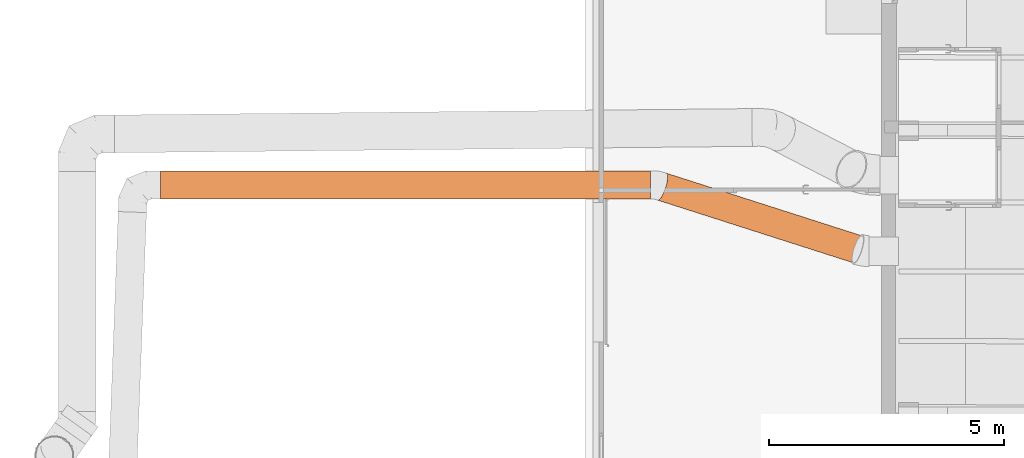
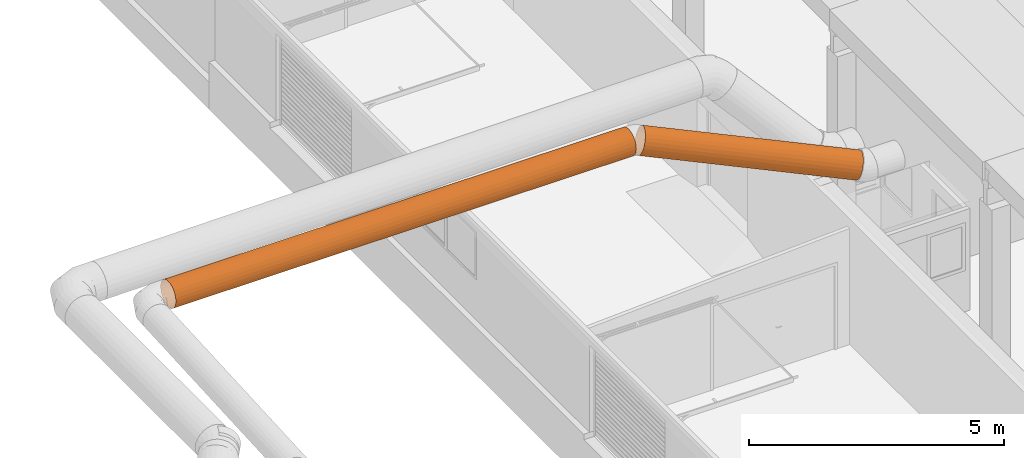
# One storey, part 292 of 301: 2 proxies.
"""IFC2X3 building model written with IfcOpenShell, lengths in millimetres."""

import ifcopenshell
import ifcopenshell.guid

model = None  # the IFC model being written
_history = None  # IfcOwnerHistory: only IFC2X3 demands one
_inside = {}  # id of a spatial element -> (the spatial element, [elements in it])
_under = {}  # id of a project, library or spatial element -> (it, [spatial elements below it])
_declared = {}  # id of a project -> (the project, [libraries it declares])
_typed = {}  # id of a type object -> (the type object, [elements of that type])
_made_of = {}  # id of a material, layer set ... -> (it, [elements and type objects made of it])


def new_model(schema):
    """Start an empty IFC model of exactly this schema.

    Asked for "IFC4X3", IfcOpenShell would pick the latest addendum, in which some entities
    have other attributes; the version numbers below select the first issue.
    IFC2X3 requires an IfcOwnerHistory on every rooted entity: one is made here for all.
    """
    global model, _history
    if schema == "IFC4X3":
        model = ifcopenshell.file(schema_version=(4, 3, 0, 0))
    else:
        model = ifcopenshell.file(schema=schema)
    _inside.clear()
    _under.clear()
    _declared.clear()
    _typed.clear()
    _made_of.clear()
    _history = None
    if model.schema == "IFC2X3":
        org = make("IfcOrganization", Name="unknown")
        user = make(
            "IfcPersonAndOrganization",
            ThePerson=make("IfcPerson", FamilyName="unknown"),
            TheOrganization=org,
        )
        app = make(
            "IfcApplication",
            ApplicationDeveloper=org,
            Version="unknown",
            ApplicationFullName="unknown",
            ApplicationIdentifier="unknown",
        )
        _history = make(
            "IfcOwnerHistory",
            OwningUser=user,
            OwningApplication=app,
            ChangeAction="ADDED",
            CreationDate=0,
        )
    return model


def make(cls, **values):
    """One entity of the class cls with the attributes given. An attribute that is None is left unset."""
    return model.create_entity(
        cls, **{name: value for name, value in values.items() if value is not None}
    )


def entity(cls, *values):
    """Any entity or typed value of the class cls, its attributes in the order of the schema. None: left unset."""
    e = model.create_entity(cls)
    for i, value in enumerate(values):
        if value is not None:
            e[i] = value
    return e


def rooted(cls, **values):
    """An entity with a GlobalId (a new one), such as an element, a storey or a relation."""
    return make(cls, GlobalId=ifcopenshell.guid.new(), OwnerHistory=_history, **values)


def si_unit(unit_type, name, prefix=None):
    """IfcSIUnit, for example si_unit("LENGTHUNIT", "METRE", prefix="MILLI")."""
    return make("IfcSIUnit", UnitType=unit_type, Prefix=prefix, Name=name)


def converted_unit(unit_type, name, factor, base, dimensions=None, offset=None):
    """IfcConversionBasedUnit, such as the inch: factor (a typed value) times the base unit."""
    return make(
        "IfcConversionBasedUnit"
        if offset is None
        else "IfcConversionBasedUnitWithOffset",
        ConversionOffset=offset,
        Dimensions=None
        if dimensions is None
        else entity("IfcDimensionalExponents", *dimensions),
        UnitType=unit_type,
        Name=name,
        ConversionFactor=make(
            "IfcMeasureWithUnit", ValueComponent=factor, UnitComponent=base
        ),
    )


def derived_unit(unit_type, elements):
    """IfcDerivedUnit: a product of units, each with its exponent."""
    return make(
        "IfcDerivedUnit",
        Elements=[
            make("IfcDerivedUnitElement", Unit=unit, Exponent=power)
            for unit, power in elements
        ],
        UnitType=unit_type,
    )


def money_unit(currency):
    """IfcMonetaryUnit."""
    return make("IfcMonetaryUnit", Currency=currency)


def assignment(units):
    """IfcUnitAssignment: the units of a project."""
    return None if units is None else make("IfcUnitAssignment", Units=units)


def point(xyz):
    """IfcCartesianPoint."""
    return None if xyz is None else make("IfcCartesianPoint", Coordinates=xyz)


def direction(xyz):
    """IfcDirection."""
    return None if xyz is None else make("IfcDirection", DirectionRatios=xyz)


def frame(location, z_axis=None, x_axis=None):
    """IfcAxis2Placement3D, a coordinate frame: its origin and axes. An axis left out is left unset."""
    return make(
        "IfcAxis2Placement3D",
        Location=point(location),
        Axis=direction(z_axis),
        RefDirection=direction(x_axis),
    )


def origin_with_axes():
    """The frame at (0, 0, 0) with the z axis (0, 0, 1) and the x axis (1, 0, 0) written out."""
    return frame((0.0, 0.0, 0.0), z_axis=(0.0, 0.0, 1.0), x_axis=(1.0, 0.0, 0.0))


def place(relative_to, where):
    """IfcLocalPlacement: puts the frame where relative to a parent placement (None: the world)."""
    return make(
        "IfcLocalPlacement", PlacementRelTo=relative_to, RelativePlacement=where
    )


def context(
    kind, dimensions, precision=None, world=None, true_north=None, identifier=None
):
    """IfcGeometricRepresentationContext, for example the 3D "Model" context."""
    return make(
        "IfcGeometricRepresentationContext",
        ContextIdentifier=identifier,
        ContextType=kind,
        CoordinateSpaceDimension=dimensions,
        Precision=precision,
        WorldCoordinateSystem=world,
        TrueNorth=true_north,
    )


def subcontext(parent, identifier, kind, view, scale=None):
    """IfcGeometricRepresentationSubContext, for example "Body" below "Model"."""
    return make(
        "IfcGeometricRepresentationSubContext",
        ContextIdentifier=identifier,
        ContextType=kind,
        ParentContext=parent,
        TargetScale=scale,
        TargetView=view,
    )


def project(units=None, contexts=None):
    """IfcProject with its units and contexts."""
    return rooted(
        "IfcProject",
        Name="project",
        RepresentationContexts=contexts,
        UnitsInContext=assignment(units),
    )


def spatial(cls, under=None, at=None, **own):
    """A site, building, storey or space (cls), placed at a placement, below another one or the project."""
    s = rooted(cls, ObjectPlacement=at, **own)
    if under is not None:
        _under.setdefault(under.id(), (under, []))[1].append(s)
    return s


def faces_of(points, faces, orient=None, outer=None):
    """IfcFace entities. A face is a list of loops; a loop is a list of indices into points, from 0.

    orient and outer hold one flag for each loop. By default every Orientation is true, the
    first loop of a face is its IfcFaceOuterBound and the others are IfcFaceBound.
    """
    made = []
    for i, loops in enumerate(faces):
        bounds = []
        for j, loop in enumerate(loops):
            is_outer = j == 0 if outer is None else outer[i][j]
            bounds.append(
                make(
                    "IfcFaceOuterBound" if is_outer else "IfcFaceBound",
                    Bound=make("IfcPolyLoop", Polygon=[points[k] for k in loop]),
                    Orientation=True if orient is None else orient[i][j],
                )
            )
        made.append(make("IfcFace", Bounds=bounds))
    return made


def open_shell(faces, orient=None, outer=None):
    """The faces of one IfcOpenShell. surface_model builds it on its shared points."""
    return ("IfcOpenShell", faces, orient, outer)


def surface_model(cls, points, shells):
    """IfcFaceBasedSurfaceModel or IfcShellBasedSurfaceModel (cls): surfaces that need not close."""
    shared = [point(p) for p in points]
    made = [make(c, CfsFaces=faces_of(shared, fs, o, b)) for c, fs, o, b in shells]
    if cls == "IfcFaceBasedSurfaceModel":
        return make(cls, FbsmFaces=made)
    return make(cls, SbsmBoundary=made)


def shape(context_of_items, identifier, shape_type, items):
    """IfcShapeRepresentation: the items that make up one representation, for example the "Body"."""
    return make(
        "IfcShapeRepresentation",
        ContextOfItems=context_of_items,
        RepresentationIdentifier=identifier,
        RepresentationType=shape_type,
        Items=items,
    )


def made_of(thing, what):
    """Note that an element or type object is made of a material, layer set ...; save() writes the relation."""
    if what is not None:
        _made_of.setdefault(what.id(), (what, []))[1].append(thing)
    return thing


def type_object(cls, material=None, **own):
    """A type object (cls), such as IfcWallType, which elements share."""
    return made_of(rooted(cls, **own), material)


def element(
    cls,
    number,
    at=None,
    inside=None,
    cuts=None,
    type_object=None,
    material=None,
    context=None,
    identifier="Body",
    shape_type=None,
    held_by="IfcProductDefinitionShape",
    body=None,
    shapes=None,
    **own,
):
    """One element of the class cls, such as IfcWall. Its Tag is "e" and its number.

    at: its placement. inside: the storey or other place that contains it. cuts: it is an
    opening in that element (IfcRelVoidsElement). A single representation is given by context,
    identifier, shape_type and body (its items); several are given by shapes. held_by: the class
    of the entity that holds the representations. save() writes the other relations.
    """
    e = rooted(cls, Tag="e%d" % number, ObjectPlacement=at, **own)
    if body is not None:
        shapes = [shape(context, identifier, shape_type, body)]
    if shapes is not None:
        e.Representation = make(held_by, Representations=shapes)
    if inside is not None:
        _inside.setdefault(inside.id(), (inside, []))[1].append(e)
    if cuts is not None:
        rooted(
            "IfcRelVoidsElement", RelatingBuildingElement=cuts, RelatedOpeningElement=e
        )
    if type_object is not None:
        _typed.setdefault(type_object.id(), (type_object, []))[1].append(e)
    return made_of(e, material)


def aggregate(whole, parts):
    """IfcRelAggregates: a whole, such as a stair, and the parts it consists of."""
    return rooted("IfcRelAggregates", RelatingObject=whole, RelatedObjects=parts)


def save(model, path):
    """Write the relations noted so far, then the file.

    IfcRelAggregates (storeys below a building ...), IfcRelContainedInSpatialStructure (elements
    in a storey), IfcRelDefinesByType, IfcRelAssociatesMaterial and IfcRelDeclares: one each for
    every whole, place, type object, material and project.
    """
    for whole, parts in _under.values():
        aggregate(whole, parts)
    for where, things in _inside.values():
        rooted(
            "IfcRelContainedInSpatialStructure",
            RelatedElements=things,
            RelatingStructure=where,
        )
    for kind, things in _typed.values():
        rooted("IfcRelDefinesByType", RelatedObjects=things, RelatingType=kind)
    for what, things in _made_of.values():
        rooted("IfcRelAssociatesMaterial", RelatedObjects=things, RelatingMaterial=what)
    for by, libraries in _declared.values():
        rooted("IfcRelDeclares", RelatingContext=by, RelatedDefinitions=libraries)
    model.write(path)


model = new_model("IFC2X3")

# Units and contexts
model_context = context("Model", 3, precision=0.01, world=origin_with_axes(), true_north=direction((0.0, 1.0)))
body_context = subcontext(model_context, "Body", "Model", "MODEL_VIEW")
ifc_project = project(units=[si_unit("LENGTHUNIT", "METRE", prefix="MILLI"), si_unit("AREAUNIT", "SQUARE_METRE"), si_unit("VOLUMEUNIT", "CUBIC_METRE"), converted_unit("PLANEANGLEUNIT", "DEGREE", entity("IfcPlaneAngleMeasure", 0.0174532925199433), si_unit("PLANEANGLEUNIT", "RADIAN"), dimensions=[0, 0, 0, 0, 0, 0, 0]), money_unit("EUR"), converted_unit("TIMEUNIT", "Year", entity("IfcTimeMeasure", 31557600.0), si_unit("TIMEUNIT", "SECOND"), dimensions=[0, 0, 1, 0, 0, 0, 0]), si_unit("MASSUNIT", "GRAM", prefix="KILO"), si_unit("THERMODYNAMICTEMPERATUREUNIT", "DEGREE_CELSIUS"), si_unit("LUMINOUSINTENSITYUNIT", "LUMEN"), si_unit("ENERGYUNIT", "JOULE", prefix="MEGA"), derived_unit("THERMALCONDUCTANCEUNIT", [(si_unit("POWERUNIT", "WATT"), 1), (si_unit("LENGTHUNIT", "METRE"), -1), (si_unit("THERMODYNAMICTEMPERATUREUNIT", "KELVIN"), -1)]), derived_unit("SPECIFICHEATCAPACITYUNIT", [(si_unit("ENERGYUNIT", "JOULE"), 1), (si_unit("MASSUNIT", "GRAM", prefix="KILO"), -1), (si_unit("THERMODYNAMICTEMPERATUREUNIT", "KELVIN"), -1)]), derived_unit("MASSDENSITYUNIT", [(si_unit("MASSUNIT", "GRAM", prefix="KILO"), 1), (si_unit("VOLUMEUNIT", "CUBIC_METRE"), -1)])], contexts=[model_context])

# Site, building, storey
site_placement = place(None, frame((0.0, 0.0, 8650.0), z_axis=(0.0, 0.0, 1.0), x_axis=(1.0, 0.0, 0.0)))
site = spatial("IfcSite", under=ifc_project, at=site_placement, Name="43301:001:0844", CompositionType="ELEMENT")
building_placement = place(site_placement, origin_with_axes())
building = spatial("IfcBuilding", under=site, at=building_placement, Name="Kuressaare Ametikooli tuulikute mehaanikute õppekorpus", CompositionType="ELEMENT")
storey_placement = place(building_placement, origin_with_axes())
storey = spatial("IfcBuildingStorey", under=building, at=storey_placement, Name="1.korrus", CompositionType="ELEMENT", Elevation=0.0)

# Proxies
building_element_proxy_type = type_object("IfcBuildingElementProxyType", Name="IfcBuildingElementProxy", PredefinedType="NOTDEFINED")
proxy_1_placement = place(storey_placement, frame((83230.35452413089, 48892.56965789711, 6444.219277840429), z_axis=(1.0, 0.0, 0.0), x_axis=(0.0, 1.0, 0.0)))
element("IfcBuildingElementProxy", 1, at=proxy_1_placement, inside=storey, type_object=building_element_proxy_type, context=body_context, shape_type="SurfaceModel", body=[
    surface_model("IfcShellBasedSurfaceModel", [(25.09347365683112, -289.5275371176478, -78.39083384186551), (98.43428221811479, -279.662125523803, -51.96910266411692), (-1233.83675466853, -1521.997185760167, 4109.983081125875), (-1307.177563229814, -1531.862597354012, 4083.561349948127), (165.0669571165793, -250.7382022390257, -22.0057630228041), (-1167.204079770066, -1493.07326247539, 4139.946420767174), (-49.95741366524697, -279.662125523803, -99.47035924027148), (-1382.228450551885, -1521.997185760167, 4062.481824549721), (220.4505916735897, -204.7268848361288, 9.457233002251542), (-1111.820445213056, -1447.061945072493, 4171.409416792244), (-121.6037858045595, -250.7382022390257, -113.7711440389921), (-1453.874822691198, -1493.07326247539, 4048.181039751), (260.8108827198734, -144.7637685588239, 40.27573422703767), (-1071.460154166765, -1387.098828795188, 4202.22791801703), (-184.9630609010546, -204.7268848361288, -120.3186133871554), (-1517.234097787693, -1447.061945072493, 4041.633570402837), (283.3973431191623, -74.93524068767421, 68.34951072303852), (-1048.873693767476, -1317.270300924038, 4230.301694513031), (-235.7174090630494, -144.7637685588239, -118.6665680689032), (-1567.988445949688, -1387.098828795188, 4043.285615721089), (286.6707429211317, 0.0, 91.76538101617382), (-1045.600293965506, -1242.335060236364, 4253.717564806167), (-270.4080053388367, -74.93524068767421, -108.927592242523), (-1602.679042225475, -1317.270300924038, 4053.024591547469), (270.4080053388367, 74.93524068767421, 108.927592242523), (-1061.863031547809, -1167.39981954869, 4270.879776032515), (-286.6707429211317, 0.0, -91.76538101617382), (-1618.941779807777, -1242.335060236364, 4070.186802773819), (235.7174090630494, 144.7637685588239, 118.6665680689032), (-1096.553627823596, -1097.57129167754, 4280.618751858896), (-283.3973431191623, 74.93524068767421, -68.34951072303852), (-1615.668380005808, -1167.39981954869, 4093.602673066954), (184.9630609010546, 204.7268848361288, 120.3186133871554), (-1147.307975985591, -1037.608175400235, 4282.270797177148), (-260.8108827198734, 144.7637685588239, -40.27573422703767), (-1593.081919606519, -1097.571291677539, 4121.676449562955), (121.6037858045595, 250.7382022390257, 113.7711440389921), (-1210.667251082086, -991.5968579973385, 4275.723327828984), (-220.4505916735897, 204.7268848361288, -9.457233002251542), (-1552.721628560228, -1037.608175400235, 4152.494950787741), (49.95741366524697, 279.662125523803, 99.47035924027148), (-1282.313623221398, -962.6729347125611, 4261.422543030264), (-165.0669571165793, 250.7382022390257, 22.0057630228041), (-1497.337994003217, -991.5968579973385, 4183.957946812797), (-25.09347365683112, 289.5275371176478, 78.39083384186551), (-1357.364510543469, -952.8075231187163, 4240.343017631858), (-98.43428221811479, 279.662125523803, 51.96910266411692), (-1430.705319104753, -962.6729347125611, 4213.92128645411)], [open_shell([[[0, 1, 2, 3]], [[1, 4, 5, 2]], [[6, 0, 3, 7]], [[4, 8, 9, 5]], [[10, 6, 7, 11]], [[8, 12, 13, 9]], [[14, 10, 11, 15]], [[12, 16, 17, 13]], [[18, 14, 15, 19]], [[16, 20, 21, 17]], [[22, 18, 19, 23]], [[20, 24, 25, 21]], [[26, 22, 23, 27]], [[24, 28, 29, 25]], [[30, 26, 27, 31]], [[28, 32, 33, 29]], [[34, 30, 31, 35]], [[32, 36, 37, 33]], [[38, 34, 35, 39]], [[36, 40, 41, 37]], [[42, 38, 39, 43]], [[40, 44, 45, 41]], [[46, 42, 43, 47]], [[44, 46, 47, 45]]])]),
])
proxy_2_placement = place(storey_placement, frame((72578.89396686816, 48929.38613891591, 6479.001070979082), z_axis=(1.0, 0.0, 0.0), x_axis=(0.0, 1.0, 0.0)))
element("IfcBuildingElementProxy", 2, at=proxy_2_placement, inside=storey, type_object=building_element_proxy_type, context=body_context, shape_type="SurfaceModel", body=[
    surface_model("IfcShellBasedSurfaceModel", [(0.0, -300.9999997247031, -0.01287357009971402), (77.90453257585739, -290.7436734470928, -0.01243491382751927), (77.90453257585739, -291.1889407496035, 10410.88811212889), (0.0, -301.445267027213, 10410.88767347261), (150.500000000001, -260.6736463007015, -0.01114883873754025), (150.500000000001, -261.1189136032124, 10410.88939820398), (-77.90453257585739, -290.7436734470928, -0.01243491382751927), (-77.90453257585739, -291.1889407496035, 10410.88811212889), (212.8391411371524, -212.8391409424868, -0.00910298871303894), (212.8391411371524, -213.2844082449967, 10410.891444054), (-150.500000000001, -260.6736463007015, -0.01114883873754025), (-150.500000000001, -261.1189136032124, 10410.88939820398), (260.673646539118, -150.4999998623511, -0.00643678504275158), (260.673646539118, -150.9452671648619, 10410.89411025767), (-212.8391411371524, -212.8391409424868, -0.00910298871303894), (-212.8391411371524, -213.2844082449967, 10410.891444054), (290.7436737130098, -77.90453250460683, -0.003331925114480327), (290.7436737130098, -78.34979980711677, 10410.8972151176), (-260.673646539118, -150.4999998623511, -0.00643678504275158), (-260.673646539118, -150.9452671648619, 10410.89411025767), (301.0000000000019, 0.0, 0.0), (301.0000000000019, -0.445267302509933, 10410.90054704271), (-290.7436737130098, -77.90453250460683, -0.003331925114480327), (-290.7436737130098, -78.34979980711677, 10410.8972151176), (290.7436737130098, 77.90453250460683, 0.003331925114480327), (290.7436737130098, 77.459265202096, 10410.90387896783), (-301.0000000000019, 0.0, 0.0), (-301.0000000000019, -0.445267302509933, 10410.90054704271), (260.673646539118, 150.4999998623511, 0.00643678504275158), (260.673646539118, 150.0547325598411, 10410.90698382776), (-290.7436737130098, 77.90453250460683, 0.003331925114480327), (-290.7436737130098, 77.459265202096, 10410.90387896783), (212.8391411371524, 212.8391409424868, 0.00910298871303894), (212.8391411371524, 212.393873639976, 10410.90965003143), (-260.673646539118, 150.499999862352, 0.00643678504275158), (-260.673646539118, 150.0547325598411, 10410.90698382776), (150.500000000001, 260.6736463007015, 0.01114883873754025), (150.500000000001, 260.2283789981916, 10410.91169588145), (-212.8391411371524, 212.8391409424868, 0.00910298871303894), (-212.8391411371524, 212.393873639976, 10410.90965003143), (77.90453257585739, 290.7436734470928, 0.01243491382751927), (77.90453257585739, 290.2984061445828, 10410.91298195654), (-150.500000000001, 260.6736463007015, 0.01114883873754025), (-150.500000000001, 260.2283789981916, 10410.91169588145), (0.0, 300.9999997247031, 0.01287357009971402), (0.0, 300.5547324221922, 10410.91342061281), (-77.90453257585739, 290.7436734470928, 0.01243491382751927), (-77.90453257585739, 290.2984061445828, 10410.91298195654)], [open_shell([[[0, 1, 2, 3]], [[1, 4, 5, 2]], [[6, 0, 3, 7]], [[4, 8, 9, 5]], [[10, 6, 7, 11]], [[8, 12, 13, 9]], [[14, 10, 11, 15]], [[12, 16, 17, 13]], [[18, 14, 15, 19]], [[16, 20, 21, 17]], [[22, 18, 19, 23]], [[20, 24, 25, 21]], [[26, 22, 23, 27]], [[24, 28, 29, 25]], [[30, 26, 27, 31]], [[28, 32, 33, 29]], [[34, 30, 31, 35]], [[32, 36, 37, 33]], [[38, 34, 35, 39]], [[36, 40, 41, 37]], [[42, 38, 39, 43]], [[40, 44, 45, 41]], [[46, 42, 43, 47]], [[44, 46, 47, 45]]])]),
])

save(model, "model.ifc")
